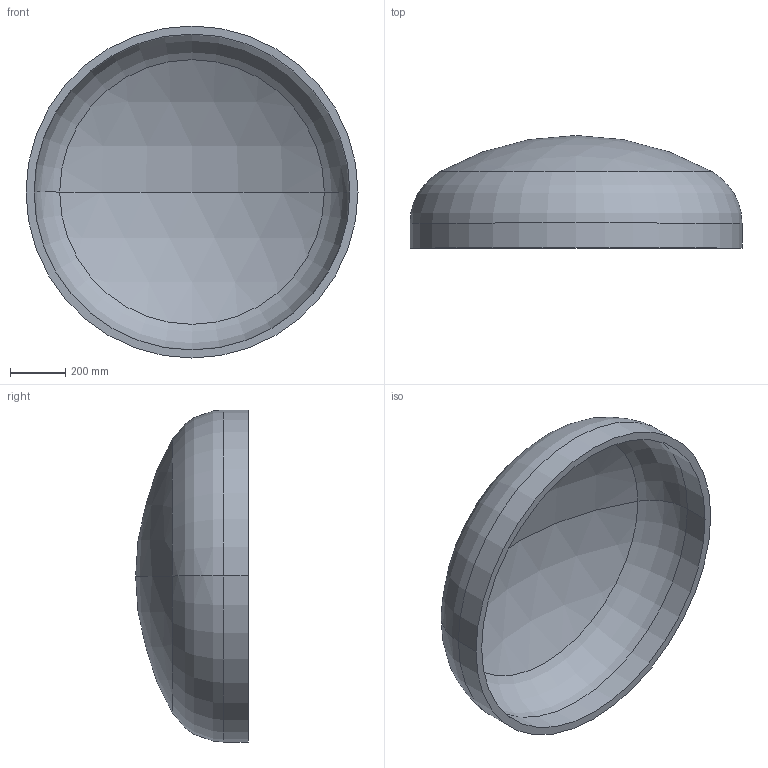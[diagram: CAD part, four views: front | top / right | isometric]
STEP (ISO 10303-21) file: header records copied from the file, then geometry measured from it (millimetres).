
FILE_DESCRIPTION (( 'STEP AP203' ), '1' );
FILE_NAME ('DIN 28013 Korbbogenform_-_Boden DIN 28013 - 1200 x 90 - I - s=29.step', '2016-07-01T09:25:25', ( '' ), ( '' ), 'SwSTEP 2.0', 'SolidWorks 2013', '' );
FILE_SCHEMA (( 'CONFIG_CONTROL_DESIGN' ));
Length unit declared in the file: millimetre
Products named in the file (1): DIN 28013 Korbbogenform_-_Boden DIN 28013 - 1200 x 90 - I - s=29
Bounding box: 1200 x 406.97 x 1200 mm (x, y, z)
Volume: 53618076.8 mm3; surface area: 3806244 mm2
Topology: 1 solids, 1 shells, 13 faces, 24 edges, 14 vertices
Faces by surface type: torus 4, cylinder 4, sphere 4, plane 1
Entity records: 407 total; most frequent: DIRECTION 72, CARTESIAN_POINT 52, ORIENTED_EDGE 48, AXIS2_PLACEMENT_3D 34, EDGE_CURVE 24, CIRCLE 20, EDGE_LOOP 14, VERTEX_POINT 14
